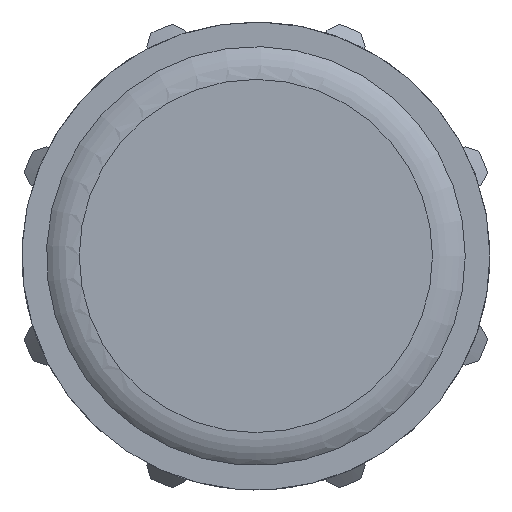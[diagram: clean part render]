
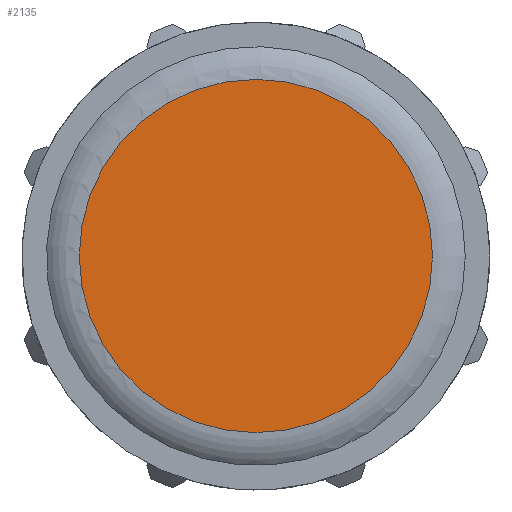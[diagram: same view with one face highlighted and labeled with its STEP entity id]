
A CAD part, left-side view. The second image highlights one B-rep face of the part: STEP entity #2135.
In plain terms, the highlighted planar face has unit normal (-1, 0, 0).
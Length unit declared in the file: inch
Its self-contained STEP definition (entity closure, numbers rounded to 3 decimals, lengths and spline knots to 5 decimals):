
#94=PLANE('',#2282);
#487=FACE_OUTER_BOUND('',#602,.T.);
#602=EDGE_LOOP('',(#1387));
#732=CIRCLE('',#2278,1.59542);
#841=VERTEX_POINT('',#3115);
#1058=EDGE_CURVE('',#841,#841,#732,.T.);
#1387=ORIENTED_EDGE('',*,*,#1058,.F.);
#2135=ADVANCED_FACE('',(#487),#94,.T.);
#2278=AXIS2_PLACEMENT_3D('',#3116,#2518,#2519);
#2282=AXIS2_PLACEMENT_3D('',#3122,#2526,#2527);
#2518=DIRECTION('center_axis',(1.,0.,0.));
#2519=DIRECTION('ref_axis',(0.,1.,0.));
#2526=DIRECTION('center_axis',(-1.,0.,0.));
#2527=DIRECTION('ref_axis',(0.,0.,1.));
#3115=CARTESIAN_POINT('',(0.,-1.59542,0.00069));
#3116=CARTESIAN_POINT('Origin',(0.,0.,0.));
#3122=CARTESIAN_POINT('Origin',(0.,1.89125,0.));
